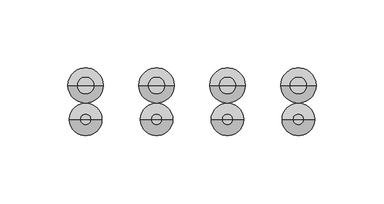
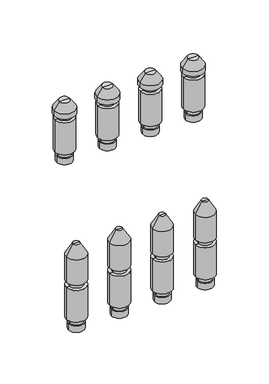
"""IFC4 building model written with IfcOpenShell, lengths in millimetres: valve geometry, PL AT_Manifold_FT-EV : 15 circuits."""

from ifc_helpers import new_model, si_unit, frame, origin, place, context, project, spatial, polyline, circle_curve, source, transform, mapped, element, save
from ifc_brep_helpers import plane_surface, cylinder_surface, revolved_surface, advanced_brep


def valve_94d66b99(model_context):
    return source(origin(), model_context, "Body", "AdvancedBrep", [
        advanced_brep(
        [(293.2142857, 0.0, -35.11267), (312.2142857, 0.0, -35.11267), (302.7142857, 0.0, -35.11267), (293.2142857, 0.0, -27.0369646), (312.2142857, 0.0, -27.0369646), (294.7142857, 0.0, -27.0369646), (310.7142857, 0.0, -27.0369646), (294.7142857, 0.0, -20.330253), (310.7142857, 0.0, -20.330253), (290.7142857, 0.0, -20.330253), (314.7142857, 0.0, -20.330253), (290.7142857, 0.0, 20.330253), (314.7142857, 0.0, 20.330253), (294.7142857, 0.0, 20.330253), (310.7142857, 0.0, 20.330253), (294.7142857, 0.0, 27.0474786), (310.7142857, 0.0, 27.0474786), (290.7142857, 0.0, 27.0474786), (314.7142857, 0.0, 27.0474786), (290.7142857, 0.0, 59.4084325), (314.7142857, 0.0, 59.4084325), (298.7142857, 0.0, 73.264839), (306.7142857, 0.0, 73.264839), (302.7142857, 0.0, 73.264839)],
        [
            (0, 1, circle_curve(frame((302.7142857, 0.0, -35.11267), z_axis=(0.0, 0.0, -1.0), x_axis=(1.0, 0.0, 0.0)), 9.5)),
            (1, 2),
            (2, 0),
            (1, 0, circle_curve(frame((302.7142857, 0.0, -35.11267), z_axis=(0.0, 0.0, -1.0), x_axis=(1.0, 0.0, 0.0)), 9.5)),
            (3, 4, circle_curve(frame((302.7142857, 0.0, -27.0369646), z_axis=(0.0, 0.0, -1.0), x_axis=(1.0, 0.0, 0.0)), 9.5)),
            (4, 1),
            (0, 3),
            (4, 3, circle_curve(frame((302.7142857, 0.0, -27.0369646), z_axis=(0.0, 0.0, -1.0), x_axis=(1.0, 0.0, 0.0)), 9.5)),
            (5, 6, circle_curve(frame((302.7142857, 0.0, -27.0369646), z_axis=(0.0, 0.0, -1.0), x_axis=(1.0, 0.0, 0.0)), 8.0)),
            (6, 4),
            (3, 5),
            (6, 5, circle_curve(frame((302.7142857, 0.0, -27.0369646), z_axis=(0.0, 0.0, -1.0), x_axis=(1.0, 0.0, 0.0)), 8.0)),
            (7, 8, circle_curve(frame((302.7142857, 0.0, -20.330253), z_axis=(0.0, 0.0, -1.0), x_axis=(1.0, 0.0, 0.0)), 8.0)),
            (8, 6),
            (5, 7),
            (8, 7, circle_curve(frame((302.7142857, 0.0, -20.330253), z_axis=(0.0, 0.0, -1.0), x_axis=(1.0, 0.0, 0.0)), 8.0)),
            (9, 10, circle_curve(frame((302.7142857, 0.0, -20.330253), z_axis=(0.0, 0.0, -1.0), x_axis=(1.0, 0.0, 0.0)), 12.0)),
            (10, 8),
            (7, 9),
            (10, 9, circle_curve(frame((302.7142857, 0.0, -20.330253), z_axis=(0.0, 0.0, -1.0), x_axis=(1.0, 0.0, 0.0)), 12.0)),
            (11, 12, circle_curve(frame((302.7142857, 0.0, 20.330253), z_axis=(0.0, 0.0, -1.0), x_axis=(1.0, 0.0, 0.0)), 12.0)),
            (12, 10),
            (9, 11),
            (12, 11, circle_curve(frame((302.7142857, 0.0, 20.330253), z_axis=(0.0, 0.0, -1.0), x_axis=(1.0, 0.0, 0.0)), 12.0)),
            (13, 14, circle_curve(frame((302.7142857, 0.0, 20.330253), z_axis=(0.0, 0.0, -1.0), x_axis=(1.0, 0.0, 0.0)), 8.0)),
            (14, 12),
            (11, 13),
            (14, 13, circle_curve(frame((302.7142857, 0.0, 20.330253), z_axis=(0.0, 0.0, -1.0), x_axis=(1.0, 0.0, 0.0)), 8.0)),
            (15, 16, circle_curve(frame((302.7142857, 0.0, 27.0474786), z_axis=(0.0, 0.0, -1.0), x_axis=(1.0, 0.0, 0.0)), 8.0)),
            (16, 14),
            (13, 15),
            (16, 15, circle_curve(frame((302.7142857, 0.0, 27.0474786), z_axis=(0.0, 0.0, -1.0), x_axis=(1.0, 0.0, 0.0)), 8.0)),
            (17, 18, circle_curve(frame((302.7142857, 0.0, 27.0474786), z_axis=(0.0, 0.0, -1.0), x_axis=(1.0, 0.0, 0.0)), 12.0)),
            (18, 16),
            (15, 17),
            (18, 17, circle_curve(frame((302.7142857, 0.0, 27.0474786), z_axis=(0.0, 0.0, -1.0), x_axis=(1.0, 0.0, 0.0)), 12.0)),
            (19, 20, circle_curve(frame((302.7142857, 0.0, 59.4084325), z_axis=(0.0, 0.0, -1.0), x_axis=(1.0, 0.0, 0.0)), 12.0)),
            (20, 18),
            (17, 19),
            (20, 19, circle_curve(frame((302.7142857, 0.0, 59.4084325), z_axis=(0.0, 0.0, -1.0), x_axis=(1.0, 0.0, 0.0)), 12.0)),
            (21, 22, circle_curve(frame((302.7142857, 0.0, 73.264839), z_axis=(0.0, 0.0, -1.0), x_axis=(1.0, 0.0, 0.0)), 4.0)),
            (22, 20),
            (19, 21),
            (22, 21, circle_curve(frame((302.7142857, 0.0, 73.264839), z_axis=(0.0, 0.0, -1.0), x_axis=(1.0, 0.0, 0.0)), 4.0)),
            (23, 22),
            (21, 23),
        ],
        [
            plane_surface(frame((302.7142857, 0.0, -35.11267), z_axis=(0.0, 0.0, -1.0), x_axis=(1.0, 0.0, 0.0))),
            cylinder_surface(frame((302.7142857, 0.0, 58.264839), z_axis=(0.0, 0.0, 1.0), x_axis=(1.0, 0.0, 0.0)), 9.5),
            plane_surface(frame((302.7142857, 0.0, -27.0369646), z_axis=(0.0, 0.0, 1.0), x_axis=(1.0, 0.0, 0.0))),
            cylinder_surface(frame((302.7142857, 0.0, 58.264839), z_axis=(0.0, 0.0, 1.0), x_axis=(1.0, 0.0, 0.0)), 8.0),
            plane_surface(frame((302.7142857, 0.0, -20.330253), z_axis=(0.0, 0.0, -1.0), x_axis=(1.0, 0.0, 0.0))),
            cylinder_surface(frame((302.7142857, 0.0, 58.264839), z_axis=(0.0, 0.0, 1.0), x_axis=(1.0, 0.0, 0.0)), 12.0),
            plane_surface(frame((302.7142857, 0.0, 20.330253), z_axis=(0.0, 0.0, 1.0), x_axis=(1.0, 0.0, 0.0))),
            plane_surface(frame((302.7142857, 0.0, 27.0474786), z_axis=(0.0, 0.0, -1.0), x_axis=(1.0, 0.0, 0.0))),
            revolved_surface(polyline([(314.7142857, 0.0, 59.4084325), (306.7142857, 0.0, 73.264839)]), (302.7142857, 0.0, 58.264839), (0.0, 0.0, 1.0)),
            plane_surface(frame((302.7142857, 0.0, 73.264839), z_axis=(0.0, 0.0, 1.0), x_axis=(1.0, 0.0, 0.0))),
        ],
        [
            (0, [[1, 2, 3]]),
            (0, [[4, -3, -2]]),
            (1, [[5, 6, -1, 7]]),
            (1, [[8, -7, -4, -6]]),
            (2, [[9, 10, -5, 11]]),
            (2, [[12, -11, -8, -10]]),
            (3, [[13, 14, -9, 15]]),
            (3, [[16, -15, -12, -14]]),
            (4, [[17, 18, -13, 19]]),
            (4, [[20, -19, -16, -18]]),
            (5, [[21, 22, -17, 23]]),
            (5, [[24, -23, -20, -22]]),
            (6, [[25, 26, -21, 27]]),
            (6, [[28, -27, -24, -26]]),
            (3, [[29, 30, -25, 31]]),
            (3, [[32, -31, -28, -30]]),
            (7, [[33, 34, -29, 35]]),
            (7, [[36, -35, -32, -34]]),
            (5, [[37, 38, -33, 39]]),
            (5, [[40, -39, -36, -38]]),
            (8, [[41, 42, -37, 43]]),
            (8, [[44, -43, -40, -42]]),
            (9, [[45, -41, 46]]),
            (9, [[-46, -44, -45]]),
        ],
    ),
        advanced_brep(
        [(241.0714286, 0.0, -35.11267), (260.0714286, 0.0, -35.11267), (250.5714286, 0.0, -35.11267), (241.0714286, 0.0, -27.0369646), (260.0714286, 0.0, -27.0369646), (242.5714286, 0.0, -27.0369646), (258.5714286, 0.0, -27.0369646), (242.5714286, 0.0, -20.330253), (258.5714286, 0.0, -20.330253), (238.5714286, 0.0, -20.330253), (262.5714286, 0.0, -20.330253), (238.5714286, 0.0, 20.330253), (262.5714286, 0.0, 20.330253), (242.5714286, 0.0, 20.330253), (258.5714286, 0.0, 20.330253), (242.5714286, 0.0, 27.0474786), (258.5714286, 0.0, 27.0474786), (238.5714286, 0.0, 27.0474786), (262.5714286, 0.0, 27.0474786), (238.5714286, 0.0, 59.4084325), (262.5714286, 0.0, 59.4084325), (246.5714286, 0.0, 73.264839), (254.5714286, 0.0, 73.264839), (250.5714286, 0.0, 73.264839)],
        [
            (0, 1, circle_curve(frame((250.5714286, 0.0, -35.11267), z_axis=(0.0, 0.0, -1.0), x_axis=(1.0, 0.0, 0.0)), 9.5)),
            (1, 2),
            (2, 0),
            (1, 0, circle_curve(frame((250.5714286, 0.0, -35.11267), z_axis=(0.0, 0.0, -1.0), x_axis=(1.0, 0.0, 0.0)), 9.5)),
            (3, 4, circle_curve(frame((250.5714286, 0.0, -27.0369646), z_axis=(0.0, 0.0, -1.0), x_axis=(1.0, 0.0, 0.0)), 9.5)),
            (4, 1),
            (0, 3),
            (4, 3, circle_curve(frame((250.5714286, 0.0, -27.0369646), z_axis=(0.0, 0.0, -1.0), x_axis=(1.0, 0.0, 0.0)), 9.5)),
            (5, 6, circle_curve(frame((250.5714286, 0.0, -27.0369646), z_axis=(0.0, 0.0, -1.0), x_axis=(1.0, 0.0, 0.0)), 8.0)),
            (6, 4),
            (3, 5),
            (6, 5, circle_curve(frame((250.5714286, 0.0, -27.0369646), z_axis=(0.0, 0.0, -1.0), x_axis=(1.0, 0.0, 0.0)), 8.0)),
            (7, 8, circle_curve(frame((250.5714286, 0.0, -20.330253), z_axis=(0.0, 0.0, -1.0), x_axis=(1.0, 0.0, 0.0)), 8.0)),
            (8, 6),
            (5, 7),
            (8, 7, circle_curve(frame((250.5714286, 0.0, -20.330253), z_axis=(0.0, 0.0, -1.0), x_axis=(1.0, 0.0, 0.0)), 8.0)),
            (9, 10, circle_curve(frame((250.5714286, 0.0, -20.330253), z_axis=(0.0, 0.0, -1.0), x_axis=(1.0, 0.0, 0.0)), 12.0)),
            (10, 8),
            (7, 9),
            (10, 9, circle_curve(frame((250.5714286, 0.0, -20.330253), z_axis=(0.0, 0.0, -1.0), x_axis=(1.0, 0.0, 0.0)), 12.0)),
            (11, 12, circle_curve(frame((250.5714286, 0.0, 20.330253), z_axis=(0.0, 0.0, -1.0), x_axis=(1.0, 0.0, 0.0)), 12.0)),
            (12, 10),
            (9, 11),
            (12, 11, circle_curve(frame((250.5714286, 0.0, 20.330253), z_axis=(0.0, 0.0, -1.0), x_axis=(1.0, 0.0, 0.0)), 12.0)),
            (13, 14, circle_curve(frame((250.5714286, 0.0, 20.330253), z_axis=(0.0, 0.0, -1.0), x_axis=(1.0, 0.0, 0.0)), 8.0)),
            (14, 12),
            (11, 13),
            (14, 13, circle_curve(frame((250.5714286, 0.0, 20.330253), z_axis=(0.0, 0.0, -1.0), x_axis=(1.0, 0.0, 0.0)), 8.0)),
            (15, 16, circle_curve(frame((250.5714286, 0.0, 27.0474786), z_axis=(0.0, 0.0, -1.0), x_axis=(1.0, 0.0, 0.0)), 8.0)),
            (16, 14),
            (13, 15),
            (16, 15, circle_curve(frame((250.5714286, 0.0, 27.0474786), z_axis=(0.0, 0.0, -1.0), x_axis=(1.0, 0.0, 0.0)), 8.0)),
            (17, 18, circle_curve(frame((250.5714286, 0.0, 27.0474786), z_axis=(0.0, 0.0, -1.0), x_axis=(1.0, 0.0, 0.0)), 12.0)),
            (18, 16),
            (15, 17),
            (18, 17, circle_curve(frame((250.5714286, 0.0, 27.0474786), z_axis=(0.0, 0.0, -1.0), x_axis=(1.0, 0.0, 0.0)), 12.0)),
            (19, 20, circle_curve(frame((250.5714286, 0.0, 59.4084325), z_axis=(0.0, 0.0, -1.0), x_axis=(1.0, 0.0, 0.0)), 12.0)),
            (20, 18),
            (17, 19),
            (20, 19, circle_curve(frame((250.5714286, 0.0, 59.4084325), z_axis=(0.0, 0.0, -1.0), x_axis=(1.0, 0.0, 0.0)), 12.0)),
            (21, 22, circle_curve(frame((250.5714286, 0.0, 73.264839), z_axis=(0.0, 0.0, -1.0), x_axis=(1.0, 0.0, 0.0)), 4.0)),
            (22, 20),
            (19, 21),
            (22, 21, circle_curve(frame((250.5714286, 0.0, 73.264839), z_axis=(0.0, 0.0, -1.0), x_axis=(1.0, 0.0, 0.0)), 4.0)),
            (23, 22),
            (21, 23),
        ],
        [
            plane_surface(frame((250.5714286, 0.0, -35.11267), z_axis=(0.0, 0.0, -1.0), x_axis=(1.0, 0.0, 0.0))),
            cylinder_surface(frame((250.5714286, 0.0, 58.264839), z_axis=(0.0, 0.0, 1.0), x_axis=(1.0, 0.0, 0.0)), 9.5),
            plane_surface(frame((250.5714286, 0.0, -27.0369646), z_axis=(0.0, 0.0, 1.0), x_axis=(1.0, 0.0, 0.0))),
            cylinder_surface(frame((250.5714286, 0.0, 58.264839), z_axis=(0.0, 0.0, 1.0), x_axis=(1.0, 0.0, 0.0)), 8.0),
            plane_surface(frame((250.5714286, 0.0, -20.330253), z_axis=(0.0, 0.0, -1.0), x_axis=(1.0, 0.0, 0.0))),
            cylinder_surface(frame((250.5714286, 0.0, 58.264839), z_axis=(0.0, 0.0, 1.0), x_axis=(1.0, 0.0, 0.0)), 12.0),
            plane_surface(frame((250.5714286, 0.0, 20.330253), z_axis=(0.0, 0.0, 1.0), x_axis=(1.0, 0.0, 0.0))),
            plane_surface(frame((250.5714286, 0.0, 27.0474786), z_axis=(0.0, 0.0, -1.0), x_axis=(1.0, 0.0, 0.0))),
            revolved_surface(polyline([(262.5714286, 0.0, 59.4084325), (254.5714286, 0.0, 73.264839)]), (250.5714286, 0.0, 58.264839), (0.0, 0.0, 1.0)),
            plane_surface(frame((250.5714286, 0.0, 73.264839), z_axis=(0.0, 0.0, 1.0), x_axis=(1.0, 0.0, 0.0))),
        ],
        [
            (0, [[1, 2, 3]]),
            (0, [[4, -3, -2]]),
            (1, [[5, 6, -1, 7]]),
            (1, [[8, -7, -4, -6]]),
            (2, [[9, 10, -5, 11]]),
            (2, [[12, -11, -8, -10]]),
            (3, [[13, 14, -9, 15]]),
            (3, [[16, -15, -12, -14]]),
            (4, [[17, 18, -13, 19]]),
            (4, [[20, -19, -16, -18]]),
            (5, [[21, 22, -17, 23]]),
            (5, [[24, -23, -20, -22]]),
            (6, [[25, 26, -21, 27]]),
            (6, [[28, -27, -24, -26]]),
            (3, [[29, 30, -25, 31]]),
            (3, [[32, -31, -28, -30]]),
            (7, [[33, 34, -29, 35]]),
            (7, [[36, -35, -32, -34]]),
            (5, [[37, 38, -33, 39]]),
            (5, [[40, -39, -36, -38]]),
            (8, [[41, 42, -37, 43]]),
            (8, [[44, -43, -40, -42]]),
            (9, [[45, -41, 46]]),
            (9, [[-46, -44, -45]]),
        ],
    ),
        advanced_brep(
        [(188.9285714, 0.0, -35.11267), (207.9285714, 0.0, -35.11267), (198.4285714, 0.0, -35.11267), (188.9285714, 0.0, -27.0369646), (207.9285714, 0.0, -27.0369646), (190.4285714, 0.0, -27.0369646), (206.4285714, 0.0, -27.0369646), (190.4285714, 0.0, -20.330253), (206.4285714, 0.0, -20.330253), (186.4285714, 0.0, -20.330253), (210.4285714, 0.0, -20.330253), (186.4285714, 0.0, 20.330253), (210.4285714, 0.0, 20.330253), (190.4285714, 0.0, 20.330253), (206.4285714, 0.0, 20.330253), (190.4285714, 0.0, 27.0474786), (206.4285714, 0.0, 27.0474786), (186.4285714, 0.0, 27.0474786), (210.4285714, 0.0, 27.0474786), (186.4285714, 0.0, 59.4084325), (210.4285714, 0.0, 59.4084325), (194.4285714, 0.0, 73.264839), (202.4285714, 0.0, 73.264839), (198.4285714, 0.0, 73.264839)],
        [
            (0, 1, circle_curve(frame((198.4285714, 0.0, -35.11267), z_axis=(0.0, 0.0, -1.0), x_axis=(1.0, 0.0, 0.0)), 9.5)),
            (1, 2),
            (2, 0),
            (1, 0, circle_curve(frame((198.4285714, 0.0, -35.11267), z_axis=(0.0, 0.0, -1.0), x_axis=(1.0, 0.0, 0.0)), 9.5)),
            (3, 4, circle_curve(frame((198.4285714, 0.0, -27.0369646), z_axis=(0.0, 0.0, -1.0), x_axis=(1.0, 0.0, 0.0)), 9.5)),
            (4, 1),
            (0, 3),
            (4, 3, circle_curve(frame((198.4285714, 0.0, -27.0369646), z_axis=(0.0, 0.0, -1.0), x_axis=(1.0, 0.0, 0.0)), 9.5)),
            (5, 6, circle_curve(frame((198.4285714, 0.0, -27.0369646), z_axis=(0.0, 0.0, -1.0), x_axis=(1.0, 0.0, 0.0)), 8.0)),
            (6, 4),
            (3, 5),
            (6, 5, circle_curve(frame((198.4285714, 0.0, -27.0369646), z_axis=(0.0, 0.0, -1.0), x_axis=(1.0, 0.0, 0.0)), 8.0)),
            (7, 8, circle_curve(frame((198.4285714, 0.0, -20.330253), z_axis=(0.0, 0.0, -1.0), x_axis=(1.0, 0.0, 0.0)), 8.0)),
            (8, 6),
            (5, 7),
            (8, 7, circle_curve(frame((198.4285714, 0.0, -20.330253), z_axis=(0.0, 0.0, -1.0), x_axis=(1.0, 0.0, 0.0)), 8.0)),
            (9, 10, circle_curve(frame((198.4285714, 0.0, -20.330253), z_axis=(0.0, 0.0, -1.0), x_axis=(1.0, 0.0, 0.0)), 12.0)),
            (10, 8),
            (7, 9),
            (10, 9, circle_curve(frame((198.4285714, 0.0, -20.330253), z_axis=(0.0, 0.0, -1.0), x_axis=(1.0, 0.0, 0.0)), 12.0)),
            (11, 12, circle_curve(frame((198.4285714, 0.0, 20.330253), z_axis=(0.0, 0.0, -1.0), x_axis=(1.0, 0.0, 0.0)), 12.0)),
            (12, 10),
            (9, 11),
            (12, 11, circle_curve(frame((198.4285714, 0.0, 20.330253), z_axis=(0.0, 0.0, -1.0), x_axis=(1.0, 0.0, 0.0)), 12.0)),
            (13, 14, circle_curve(frame((198.4285714, 0.0, 20.330253), z_axis=(0.0, 0.0, -1.0), x_axis=(1.0, 0.0, 0.0)), 8.0)),
            (14, 12),
            (11, 13),
            (14, 13, circle_curve(frame((198.4285714, 0.0, 20.330253), z_axis=(0.0, 0.0, -1.0), x_axis=(1.0, 0.0, 0.0)), 8.0)),
            (15, 16, circle_curve(frame((198.4285714, 0.0, 27.0474786), z_axis=(0.0, 0.0, -1.0), x_axis=(1.0, 0.0, 0.0)), 8.0)),
            (16, 14),
            (13, 15),
            (16, 15, circle_curve(frame((198.4285714, 0.0, 27.0474786), z_axis=(0.0, 0.0, -1.0), x_axis=(1.0, 0.0, 0.0)), 8.0)),
            (17, 18, circle_curve(frame((198.4285714, 0.0, 27.0474786), z_axis=(0.0, 0.0, -1.0), x_axis=(1.0, 0.0, 0.0)), 12.0)),
            (18, 16),
            (15, 17),
            (18, 17, circle_curve(frame((198.4285714, 0.0, 27.0474786), z_axis=(0.0, 0.0, -1.0), x_axis=(1.0, 0.0, 0.0)), 12.0)),
            (19, 20, circle_curve(frame((198.4285714, 0.0, 59.4084325), z_axis=(0.0, 0.0, -1.0), x_axis=(1.0, 0.0, 0.0)), 12.0)),
            (20, 18),
            (17, 19),
            (20, 19, circle_curve(frame((198.4285714, 0.0, 59.4084325), z_axis=(0.0, 0.0, -1.0), x_axis=(1.0, 0.0, 0.0)), 12.0)),
            (21, 22, circle_curve(frame((198.4285714, 0.0, 73.264839), z_axis=(0.0, 0.0, -1.0), x_axis=(1.0, 0.0, 0.0)), 4.0)),
            (22, 20),
            (19, 21),
            (22, 21, circle_curve(frame((198.4285714, 0.0, 73.264839), z_axis=(0.0, 0.0, -1.0), x_axis=(1.0, 0.0, 0.0)), 4.0)),
            (23, 22),
            (21, 23),
        ],
        [
            plane_surface(frame((198.4285714, 0.0, -35.11267), z_axis=(0.0, 0.0, -1.0), x_axis=(1.0, 0.0, 0.0))),
            cylinder_surface(frame((198.4285714, 0.0, 58.264839), z_axis=(0.0, 0.0, 1.0), x_axis=(1.0, 0.0, 0.0)), 9.5),
            plane_surface(frame((198.4285714, 0.0, -27.0369646), z_axis=(0.0, 0.0, 1.0), x_axis=(1.0, 0.0, 0.0))),
            cylinder_surface(frame((198.4285714, 0.0, 58.264839), z_axis=(0.0, 0.0, 1.0), x_axis=(1.0, 0.0, 0.0)), 8.0),
            plane_surface(frame((198.4285714, 0.0, -20.330253), z_axis=(0.0, 0.0, -1.0), x_axis=(1.0, 0.0, 0.0))),
            cylinder_surface(frame((198.4285714, 0.0, 58.264839), z_axis=(0.0, 0.0, 1.0), x_axis=(1.0, 0.0, 0.0)), 12.0),
            plane_surface(frame((198.4285714, 0.0, 20.330253), z_axis=(0.0, 0.0, 1.0), x_axis=(1.0, 0.0, 0.0))),
            plane_surface(frame((198.4285714, 0.0, 27.0474786), z_axis=(0.0, 0.0, -1.0), x_axis=(1.0, 0.0, 0.0))),
            revolved_surface(polyline([(210.4285714, 0.0, 59.4084325), (202.4285714, 0.0, 73.264839)]), (198.4285714, 0.0, 58.264839), (0.0, 0.0, 1.0)),
            plane_surface(frame((198.4285714, 0.0, 73.264839), z_axis=(0.0, 0.0, 1.0), x_axis=(1.0, 0.0, 0.0))),
        ],
        [
            (0, [[1, 2, 3]]),
            (0, [[4, -3, -2]]),
            (1, [[5, 6, -1, 7]]),
            (1, [[8, -7, -4, -6]]),
            (2, [[9, 10, -5, 11]]),
            (2, [[12, -11, -8, -10]]),
            (3, [[13, 14, -9, 15]]),
            (3, [[16, -15, -12, -14]]),
            (4, [[17, 18, -13, 19]]),
            (4, [[20, -19, -16, -18]]),
            (5, [[21, 22, -17, 23]]),
            (5, [[24, -23, -20, -22]]),
            (6, [[25, 26, -21, 27]]),
            (6, [[28, -27, -24, -26]]),
            (3, [[29, 30, -25, 31]]),
            (3, [[32, -31, -28, -30]]),
            (7, [[33, 34, -29, 35]]),
            (7, [[36, -35, -32, -34]]),
            (5, [[37, 38, -33, 39]]),
            (5, [[40, -39, -36, -38]]),
            (8, [[41, 42, -37, 43]]),
            (8, [[44, -43, -40, -42]]),
            (9, [[45, -41, 46]]),
            (9, [[-46, -44, -45]]),
        ],
    ),
        advanced_brep(
        [(136.7857143, 0.0, -35.11267), (155.7857143, 0.0, -35.11267), (146.2857143, 0.0, -35.11267), (136.7857143, 0.0, -27.0369646), (155.7857143, 0.0, -27.0369646), (138.2857143, 0.0, -27.0369646), (154.2857143, 0.0, -27.0369646), (138.2857143, 0.0, -20.330253), (154.2857143, 0.0, -20.330253), (134.2857143, 0.0, -20.330253), (158.2857143, 0.0, -20.330253), (134.2857143, 0.0, 20.330253), (158.2857143, 0.0, 20.330253), (138.2857143, 0.0, 20.330253), (154.2857143, 0.0, 20.330253), (138.2857143, 0.0, 27.0474786), (154.2857143, 0.0, 27.0474786), (134.2857143, 0.0, 27.0474786), (158.2857143, 0.0, 27.0474786), (134.2857143, 0.0, 59.4084325), (158.2857143, 0.0, 59.4084325), (142.2857143, 0.0, 73.264839), (150.2857143, 0.0, 73.264839), (146.2857143, 0.0, 73.264839)],
        [
            (0, 1, circle_curve(frame((146.2857143, 0.0, -35.11267), z_axis=(0.0, 0.0, -1.0), x_axis=(1.0, 0.0, 0.0)), 9.5)),
            (1, 2),
            (2, 0),
            (1, 0, circle_curve(frame((146.2857143, 0.0, -35.11267), z_axis=(0.0, 0.0, -1.0), x_axis=(1.0, 0.0, 0.0)), 9.5)),
            (3, 4, circle_curve(frame((146.2857143, 0.0, -27.0369646), z_axis=(0.0, 0.0, -1.0), x_axis=(1.0, 0.0, 0.0)), 9.5)),
            (4, 1),
            (0, 3),
            (4, 3, circle_curve(frame((146.2857143, 0.0, -27.0369646), z_axis=(0.0, 0.0, -1.0), x_axis=(1.0, 0.0, 0.0)), 9.5)),
            (5, 6, circle_curve(frame((146.2857143, 0.0, -27.0369646), z_axis=(0.0, 0.0, -1.0), x_axis=(1.0, 0.0, 0.0)), 8.0)),
            (6, 4),
            (3, 5),
            (6, 5, circle_curve(frame((146.2857143, 0.0, -27.0369646), z_axis=(0.0, 0.0, -1.0), x_axis=(1.0, 0.0, 0.0)), 8.0)),
            (7, 8, circle_curve(frame((146.2857143, 0.0, -20.330253), z_axis=(0.0, 0.0, -1.0), x_axis=(1.0, 0.0, 0.0)), 8.0)),
            (8, 6),
            (5, 7),
            (8, 7, circle_curve(frame((146.2857143, 0.0, -20.330253), z_axis=(0.0, 0.0, -1.0), x_axis=(1.0, 0.0, 0.0)), 8.0)),
            (9, 10, circle_curve(frame((146.2857143, 0.0, -20.330253), z_axis=(0.0, 0.0, -1.0), x_axis=(1.0, 0.0, 0.0)), 12.0)),
            (10, 8),
            (7, 9),
            (10, 9, circle_curve(frame((146.2857143, 0.0, -20.330253), z_axis=(0.0, 0.0, -1.0), x_axis=(1.0, 0.0, 0.0)), 12.0)),
            (11, 12, circle_curve(frame((146.2857143, 0.0, 20.330253), z_axis=(0.0, 0.0, -1.0), x_axis=(1.0, 0.0, 0.0)), 12.0)),
            (12, 10),
            (9, 11),
            (12, 11, circle_curve(frame((146.2857143, 0.0, 20.330253), z_axis=(0.0, 0.0, -1.0), x_axis=(1.0, 0.0, 0.0)), 12.0)),
            (13, 14, circle_curve(frame((146.2857143, 0.0, 20.330253), z_axis=(0.0, 0.0, -1.0), x_axis=(1.0, 0.0, 0.0)), 8.0)),
            (14, 12),
            (11, 13),
            (14, 13, circle_curve(frame((146.2857143, 0.0, 20.330253), z_axis=(0.0, 0.0, -1.0), x_axis=(1.0, 0.0, 0.0)), 8.0)),
            (15, 16, circle_curve(frame((146.2857143, 0.0, 27.0474786), z_axis=(0.0, 0.0, -1.0), x_axis=(1.0, 0.0, 0.0)), 8.0)),
            (16, 14),
            (13, 15),
            (16, 15, circle_curve(frame((146.2857143, 0.0, 27.0474786), z_axis=(0.0, 0.0, -1.0), x_axis=(1.0, 0.0, 0.0)), 8.0)),
            (17, 18, circle_curve(frame((146.2857143, 0.0, 27.0474786), z_axis=(0.0, 0.0, -1.0), x_axis=(1.0, 0.0, 0.0)), 12.0)),
            (18, 16),
            (15, 17),
            (18, 17, circle_curve(frame((146.2857143, 0.0, 27.0474786), z_axis=(0.0, 0.0, -1.0), x_axis=(1.0, 0.0, 0.0)), 12.0)),
            (19, 20, circle_curve(frame((146.2857143, 0.0, 59.4084325), z_axis=(0.0, 0.0, -1.0), x_axis=(1.0, 0.0, 0.0)), 12.0)),
            (20, 18),
            (17, 19),
            (20, 19, circle_curve(frame((146.2857143, 0.0, 59.4084325), z_axis=(0.0, 0.0, -1.0), x_axis=(1.0, 0.0, 0.0)), 12.0)),
            (21, 22, circle_curve(frame((146.2857143, 0.0, 73.264839), z_axis=(0.0, 0.0, -1.0), x_axis=(1.0, 0.0, 0.0)), 4.0)),
            (22, 20),
            (19, 21),
            (22, 21, circle_curve(frame((146.2857143, 0.0, 73.264839), z_axis=(0.0, 0.0, -1.0), x_axis=(1.0, 0.0, 0.0)), 4.0)),
            (23, 22),
            (21, 23),
        ],
        [
            plane_surface(frame((146.2857143, 0.0, -35.11267), z_axis=(0.0, 0.0, -1.0), x_axis=(1.0, 0.0, 0.0))),
            cylinder_surface(frame((146.2857143, 0.0, 58.264839), z_axis=(0.0, 0.0, 1.0), x_axis=(1.0, 0.0, 0.0)), 9.5),
            plane_surface(frame((146.2857143, 0.0, -27.0369646), z_axis=(0.0, 0.0, 1.0), x_axis=(1.0, 0.0, 0.0))),
            cylinder_surface(frame((146.2857143, 0.0, 58.264839), z_axis=(0.0, 0.0, 1.0), x_axis=(1.0, 0.0, 0.0)), 8.0),
            plane_surface(frame((146.2857143, 0.0, -20.330253), z_axis=(0.0, 0.0, -1.0), x_axis=(1.0, 0.0, 0.0))),
            cylinder_surface(frame((146.2857143, 0.0, 58.264839), z_axis=(0.0, 0.0, 1.0), x_axis=(1.0, 0.0, 0.0)), 12.0),
            plane_surface(frame((146.2857143, 0.0, 20.330253), z_axis=(0.0, 0.0, 1.0), x_axis=(1.0, 0.0, 0.0))),
            plane_surface(frame((146.2857143, 0.0, 27.0474786), z_axis=(0.0, 0.0, -1.0), x_axis=(1.0, 0.0, 0.0))),
            revolved_surface(polyline([(158.2857143, 0.0, 59.4084325), (150.2857143, 0.0, 73.264839)]), (146.2857143, 0.0, 58.264839), (0.0, 0.0, 1.0)),
            plane_surface(frame((146.2857143, 0.0, 73.264839), z_axis=(0.0, 0.0, 1.0), x_axis=(1.0, 0.0, 0.0))),
        ],
        [
            (0, [[1, 2, 3]]),
            (0, [[4, -3, -2]]),
            (1, [[5, 6, -1, 7]]),
            (1, [[8, -7, -4, -6]]),
            (2, [[9, 10, -5, 11]]),
            (2, [[12, -11, -8, -10]]),
            (3, [[13, 14, -9, 15]]),
            (3, [[16, -15, -12, -14]]),
            (4, [[17, 18, -13, 19]]),
            (4, [[20, -19, -16, -18]]),
            (5, [[21, 22, -17, 23]]),
            (5, [[24, -23, -20, -22]]),
            (6, [[25, 26, -21, 27]]),
            (6, [[28, -27, -24, -26]]),
            (3, [[29, 30, -25, 31]]),
            (3, [[32, -31, -28, -30]]),
            (7, [[33, 34, -29, 35]]),
            (7, [[36, -35, -32, -34]]),
            (5, [[37, 38, -33, 39]]),
            (5, [[40, -39, -36, -38]]),
            (8, [[41, 42, -37, 43]]),
            (8, [[44, -43, -40, -42]]),
            (9, [[45, -41, 46]]),
            (9, [[-46, -44, -45]]),
        ],
    ),
        advanced_brep(
        [(293.2142857, 25.0, 164.88733), (312.2142857, 25.0, 164.88733), (302.7142857, 25.0, 164.88733), (293.2142857, 25.0, 172.9630354), (312.2142857, 25.0, 172.9630354), (294.7142857, 25.0, 172.9630354), (310.7142857, 25.0, 172.9630354), (294.7142857, 25.0, 179.669747), (310.7142857, 25.0, 179.669747), (290.7142857, 25.0, 179.669747), (314.7142857, 25.0, 179.669747), (290.7142857, 25.0, 220.330253), (314.7142857, 25.0, 220.330253), (294.7142857, 25.0, 220.330253), (310.7142857, 25.0, 220.330253), (294.7142857, 25.0, 226.0474786), (310.7142857, 25.0, 226.0474786), (289.7142857, 25.0, 226.0474786), (315.7142857, 25.0, 226.0474786), (289.7142857, 25.0, 232.337955), (315.7142857, 25.0, 232.337955), (296.3694636, 25.0, 241.842534), (309.0591078, 25.0, 241.842534), (302.7142857, 25.0, 241.842534)],
        [
            (0, 1, circle_curve(frame((302.7142857, 25.0, 164.88733), z_axis=(0.0, 0.0, -1.0), x_axis=(1.0, 0.0, 0.0)), 9.5)),
            (1, 2),
            (2, 0),
            (1, 0, circle_curve(frame((302.7142857, 25.0, 164.88733), z_axis=(0.0, 0.0, -1.0), x_axis=(1.0, 0.0, 0.0)), 9.5)),
            (3, 4, circle_curve(frame((302.7142857, 25.0, 172.9630354), z_axis=(0.0, 0.0, -1.0), x_axis=(1.0, 0.0, 0.0)), 9.5)),
            (4, 1),
            (0, 3),
            (4, 3, circle_curve(frame((302.7142857, 25.0, 172.9630354), z_axis=(0.0, 0.0, -1.0), x_axis=(1.0, 0.0, 0.0)), 9.5)),
            (5, 6, circle_curve(frame((302.7142857, 25.0, 172.9630354), z_axis=(0.0, 0.0, -1.0), x_axis=(1.0, 0.0, 0.0)), 8.0)),
            (6, 4),
            (3, 5),
            (6, 5, circle_curve(frame((302.7142857, 25.0, 172.9630354), z_axis=(0.0, 0.0, -1.0), x_axis=(1.0, 0.0, 0.0)), 8.0)),
            (7, 8, circle_curve(frame((302.7142857, 25.0, 179.669747), z_axis=(0.0, 0.0, -1.0), x_axis=(1.0, 0.0, 0.0)), 8.0)),
            (8, 6),
            (5, 7),
            (8, 7, circle_curve(frame((302.7142857, 25.0, 179.669747), z_axis=(0.0, 0.0, -1.0), x_axis=(1.0, 0.0, 0.0)), 8.0)),
            (9, 10, circle_curve(frame((302.7142857, 25.0, 179.669747), z_axis=(0.0, 0.0, -1.0), x_axis=(1.0, 0.0, 0.0)), 12.0)),
            (10, 8),
            (7, 9),
            (10, 9, circle_curve(frame((302.7142857, 25.0, 179.669747), z_axis=(0.0, 0.0, -1.0), x_axis=(1.0, 0.0, 0.0)), 12.0)),
            (11, 12, circle_curve(frame((302.7142857, 25.0, 220.330253), z_axis=(0.0, 0.0, -1.0), x_axis=(1.0, 0.0, 0.0)), 12.0)),
            (12, 10),
            (9, 11),
            (12, 11, circle_curve(frame((302.7142857, 25.0, 220.330253), z_axis=(0.0, 0.0, -1.0), x_axis=(1.0, 0.0, 0.0)), 12.0)),
            (13, 14, circle_curve(frame((302.7142857, 25.0, 220.330253), z_axis=(0.0, 0.0, -1.0), x_axis=(1.0, 0.0, 0.0)), 8.0)),
            (14, 12),
            (11, 13),
            (14, 13, circle_curve(frame((302.7142857, 25.0, 220.330253), z_axis=(0.0, 0.0, -1.0), x_axis=(1.0, 0.0, 0.0)), 8.0)),
            (15, 16, circle_curve(frame((302.7142857, 25.0, 226.0474786), z_axis=(0.0, 0.0, -1.0), x_axis=(1.0, 0.0, 0.0)), 8.0)),
            (16, 14),
            (13, 15),
            (16, 15, circle_curve(frame((302.7142857, 25.0, 226.0474786), z_axis=(0.0, 0.0, -1.0), x_axis=(1.0, 0.0, 0.0)), 8.0)),
            (17, 18, circle_curve(frame((302.7142857, 25.0, 226.0474786), z_axis=(0.0, 0.0, -1.0), x_axis=(1.0, 0.0, 0.0)), 13.0)),
            (18, 16),
            (15, 17),
            (18, 17, circle_curve(frame((302.7142857, 25.0, 226.0474786), z_axis=(0.0, 0.0, -1.0), x_axis=(1.0, 0.0, 0.0)), 13.0)),
            (19, 20, circle_curve(frame((302.7142857, 25.0, 232.337955), z_axis=(0.0, 0.0, -1.0), x_axis=(1.0, 0.0, 0.0)), 13.0)),
            (20, 18),
            (17, 19),
            (20, 19, circle_curve(frame((302.7142857, 25.0, 232.337955), z_axis=(0.0, 0.0, -1.0), x_axis=(1.0, 0.0, 0.0)), 13.0)),
            (21, 22, circle_curve(frame((302.7142857, 25.0, 241.842534), z_axis=(0.0, 0.0, -1.0), x_axis=(1.0, 0.0, 0.0)), 6.3448221)),
            (22, 20),
            (19, 21),
            (22, 21, circle_curve(frame((302.7142857, 25.0, 241.842534), z_axis=(0.0, 0.0, -1.0), x_axis=(1.0, 0.0, 0.0)), 6.3448221)),
            (23, 22),
            (21, 23),
        ],
        [
            plane_surface(frame((302.7142857, 25.0, 164.88733), z_axis=(0.0, 0.0, -1.0), x_axis=(1.0, 0.0, 0.0))),
            cylinder_surface(frame((302.7142857, 25.0, 237.7026565), z_axis=(0.0, 0.0, 1.0), x_axis=(1.0, 0.0, 0.0)), 9.5),
            plane_surface(frame((302.7142857, 25.0, 172.9630354), z_axis=(0.0, 0.0, 1.0), x_axis=(1.0, 0.0, 0.0))),
            cylinder_surface(frame((302.7142857, 25.0, 237.7026565), z_axis=(0.0, 0.0, 1.0), x_axis=(1.0, 0.0, 0.0)), 8.0),
            plane_surface(frame((302.7142857, 25.0, 179.669747), z_axis=(0.0, 0.0, -1.0), x_axis=(1.0, 0.0, 0.0))),
            cylinder_surface(frame((302.7142857, 25.0, 237.7026565), z_axis=(0.0, 0.0, 1.0), x_axis=(1.0, 0.0, 0.0)), 12.0),
            plane_surface(frame((302.7142857, 25.0, 220.330253), z_axis=(0.0, 0.0, 1.0), x_axis=(1.0, 0.0, 0.0))),
            plane_surface(frame((302.7142857, 25.0, 226.0474786), z_axis=(0.0, 0.0, -1.0), x_axis=(1.0, 0.0, 0.0))),
            cylinder_surface(frame((302.7142857, 25.0, 237.7026565), z_axis=(0.0, 0.0, 1.0), x_axis=(1.0, 0.0, 0.0)), 13.0),
            revolved_surface(polyline([(315.7142857, 25.0, 232.337955), (309.0591078, 25.0, 241.842534)]), (302.7142857, 25.0, 237.7026565), (0.0, 0.0, 1.0)),
            plane_surface(frame((302.7142857, 25.0, 241.842534), z_axis=(0.0, 0.0, 1.0), x_axis=(1.0, 0.0, 0.0))),
        ],
        [
            (0, [[1, 2, 3]]),
            (0, [[4, -3, -2]]),
            (1, [[5, 6, -1, 7]]),
            (1, [[8, -7, -4, -6]]),
            (2, [[9, 10, -5, 11]]),
            (2, [[12, -11, -8, -10]]),
            (3, [[13, 14, -9, 15]]),
            (3, [[16, -15, -12, -14]]),
            (4, [[17, 18, -13, 19]]),
            (4, [[20, -19, -16, -18]]),
            (5, [[21, 22, -17, 23]]),
            (5, [[24, -23, -20, -22]]),
            (6, [[25, 26, -21, 27]]),
            (6, [[28, -27, -24, -26]]),
            (3, [[29, 30, -25, 31]]),
            (3, [[32, -31, -28, -30]]),
            (7, [[33, 34, -29, 35]]),
            (7, [[36, -35, -32, -34]]),
            (8, [[37, 38, -33, 39]]),
            (8, [[40, -39, -36, -38]]),
            (9, [[41, 42, -37, 43]]),
            (9, [[44, -43, -40, -42]]),
            (10, [[45, -41, 46]]),
            (10, [[-46, -44, -45]]),
        ],
    ),
        advanced_brep(
        [(241.0714286, 25.0, 164.88733), (260.0714286, 25.0, 164.88733), (250.5714286, 25.0, 164.88733), (241.0714286, 25.0, 172.9630354), (260.0714286, 25.0, 172.9630354), (242.5714286, 25.0, 172.9630354), (258.5714286, 25.0, 172.9630354), (242.5714286, 25.0, 179.669747), (258.5714286, 25.0, 179.669747), (238.5714286, 25.0, 179.669747), (262.5714286, 25.0, 179.669747), (238.5714286, 25.0, 220.330253), (262.5714286, 25.0, 220.330253), (242.5714286, 25.0, 220.330253), (258.5714286, 25.0, 220.330253), (242.5714286, 25.0, 226.0474786), (258.5714286, 25.0, 226.0474786), (237.5714286, 25.0, 226.0474786), (263.5714286, 25.0, 226.0474786), (237.5714286, 25.0, 232.337955), (263.5714286, 25.0, 232.337955), (244.2266064, 25.0, 241.842534), (256.9162507, 25.0, 241.842534), (250.5714286, 25.0, 241.842534)],
        [
            (0, 1, circle_curve(frame((250.5714286, 25.0, 164.88733), z_axis=(0.0, 0.0, -1.0), x_axis=(1.0, 0.0, 0.0)), 9.5)),
            (1, 2),
            (2, 0),
            (1, 0, circle_curve(frame((250.5714286, 25.0, 164.88733), z_axis=(0.0, 0.0, -1.0), x_axis=(1.0, 0.0, 0.0)), 9.5)),
            (3, 4, circle_curve(frame((250.5714286, 25.0, 172.9630354), z_axis=(0.0, 0.0, -1.0), x_axis=(1.0, 0.0, 0.0)), 9.5)),
            (4, 1),
            (0, 3),
            (4, 3, circle_curve(frame((250.5714286, 25.0, 172.9630354), z_axis=(0.0, 0.0, -1.0), x_axis=(1.0, 0.0, 0.0)), 9.5)),
            (5, 6, circle_curve(frame((250.5714286, 25.0, 172.9630354), z_axis=(0.0, 0.0, -1.0), x_axis=(1.0, 0.0, 0.0)), 8.0)),
            (6, 4),
            (3, 5),
            (6, 5, circle_curve(frame((250.5714286, 25.0, 172.9630354), z_axis=(0.0, 0.0, -1.0), x_axis=(1.0, 0.0, 0.0)), 8.0)),
            (7, 8, circle_curve(frame((250.5714286, 25.0, 179.669747), z_axis=(0.0, 0.0, -1.0), x_axis=(1.0, 0.0, 0.0)), 8.0)),
            (8, 6),
            (5, 7),
            (8, 7, circle_curve(frame((250.5714286, 25.0, 179.669747), z_axis=(0.0, 0.0, -1.0), x_axis=(1.0, 0.0, 0.0)), 8.0)),
            (9, 10, circle_curve(frame((250.5714286, 25.0, 179.669747), z_axis=(0.0, 0.0, -1.0), x_axis=(1.0, 0.0, 0.0)), 12.0)),
            (10, 8),
            (7, 9),
            (10, 9, circle_curve(frame((250.5714286, 25.0, 179.669747), z_axis=(0.0, 0.0, -1.0), x_axis=(1.0, 0.0, 0.0)), 12.0)),
            (11, 12, circle_curve(frame((250.5714286, 25.0, 220.330253), z_axis=(0.0, 0.0, -1.0), x_axis=(1.0, 0.0, 0.0)), 12.0)),
            (12, 10),
            (9, 11),
            (12, 11, circle_curve(frame((250.5714286, 25.0, 220.330253), z_axis=(0.0, 0.0, -1.0), x_axis=(1.0, 0.0, 0.0)), 12.0)),
            (13, 14, circle_curve(frame((250.5714286, 25.0, 220.330253), z_axis=(0.0, 0.0, -1.0), x_axis=(1.0, 0.0, 0.0)), 8.0)),
            (14, 12),
            (11, 13),
            (14, 13, circle_curve(frame((250.5714286, 25.0, 220.330253), z_axis=(0.0, 0.0, -1.0), x_axis=(1.0, 0.0, 0.0)), 8.0)),
            (15, 16, circle_curve(frame((250.5714286, 25.0, 226.0474786), z_axis=(0.0, 0.0, -1.0), x_axis=(1.0, 0.0, 0.0)), 8.0)),
            (16, 14),
            (13, 15),
            (16, 15, circle_curve(frame((250.5714286, 25.0, 226.0474786), z_axis=(0.0, 0.0, -1.0), x_axis=(1.0, 0.0, 0.0)), 8.0)),
            (17, 18, circle_curve(frame((250.5714286, 25.0, 226.0474786), z_axis=(0.0, 0.0, -1.0), x_axis=(1.0, 0.0, 0.0)), 13.0)),
            (18, 16),
            (15, 17),
            (18, 17, circle_curve(frame((250.5714286, 25.0, 226.0474786), z_axis=(0.0, 0.0, -1.0), x_axis=(1.0, 0.0, 0.0)), 13.0)),
            (19, 20, circle_curve(frame((250.5714286, 25.0, 232.337955), z_axis=(0.0, 0.0, -1.0), x_axis=(1.0, 0.0, 0.0)), 13.0)),
            (20, 18),
            (17, 19),
            (20, 19, circle_curve(frame((250.5714286, 25.0, 232.337955), z_axis=(0.0, 0.0, -1.0), x_axis=(1.0, 0.0, 0.0)), 13.0)),
            (21, 22, circle_curve(frame((250.5714286, 25.0, 241.842534), z_axis=(0.0, 0.0, -1.0), x_axis=(1.0, 0.0, 0.0)), 6.3448221)),
            (22, 20),
            (19, 21),
            (22, 21, circle_curve(frame((250.5714286, 25.0, 241.842534), z_axis=(0.0, 0.0, -1.0), x_axis=(1.0, 0.0, 0.0)), 6.3448221)),
            (23, 22),
            (21, 23),
        ],
        [
            plane_surface(frame((250.5714286, 25.0, 164.88733), z_axis=(0.0, 0.0, -1.0), x_axis=(1.0, 0.0, 0.0))),
            cylinder_surface(frame((250.5714286, 25.0, 237.7026565), z_axis=(0.0, 0.0, 1.0), x_axis=(1.0, 0.0, 0.0)), 9.5),
            plane_surface(frame((250.5714286, 25.0, 172.9630354), z_axis=(0.0, 0.0, 1.0), x_axis=(1.0, 0.0, 0.0))),
            cylinder_surface(frame((250.5714286, 25.0, 237.7026565), z_axis=(0.0, 0.0, 1.0), x_axis=(1.0, 0.0, 0.0)), 8.0),
            plane_surface(frame((250.5714286, 25.0, 179.669747), z_axis=(0.0, 0.0, -1.0), x_axis=(1.0, 0.0, 0.0))),
            cylinder_surface(frame((250.5714286, 25.0, 237.7026565), z_axis=(0.0, 0.0, 1.0), x_axis=(1.0, 0.0, 0.0)), 12.0),
            plane_surface(frame((250.5714286, 25.0, 220.330253), z_axis=(0.0, 0.0, 1.0), x_axis=(1.0, 0.0, 0.0))),
            plane_surface(frame((250.5714286, 25.0, 226.0474786), z_axis=(0.0, 0.0, -1.0), x_axis=(1.0, 0.0, 0.0))),
            cylinder_surface(frame((250.5714286, 25.0, 237.7026565), z_axis=(0.0, 0.0, 1.0), x_axis=(1.0, 0.0, 0.0)), 13.0),
            revolved_surface(polyline([(263.5714286, 25.0, 232.337955), (256.9162507, 25.0, 241.842534)]), (250.5714286, 25.0, 237.7026565), (0.0, 0.0, 1.0)),
            plane_surface(frame((250.5714286, 25.0, 241.842534), z_axis=(0.0, 0.0, 1.0), x_axis=(1.0, 0.0, 0.0))),
        ],
        [
            (0, [[1, 2, 3]]),
            (0, [[4, -3, -2]]),
            (1, [[5, 6, -1, 7]]),
            (1, [[8, -7, -4, -6]]),
            (2, [[9, 10, -5, 11]]),
            (2, [[12, -11, -8, -10]]),
            (3, [[13, 14, -9, 15]]),
            (3, [[16, -15, -12, -14]]),
            (4, [[17, 18, -13, 19]]),
            (4, [[20, -19, -16, -18]]),
            (5, [[21, 22, -17, 23]]),
            (5, [[24, -23, -20, -22]]),
            (6, [[25, 26, -21, 27]]),
            (6, [[28, -27, -24, -26]]),
            (3, [[29, 30, -25, 31]]),
            (3, [[32, -31, -28, -30]]),
            (7, [[33, 34, -29, 35]]),
            (7, [[36, -35, -32, -34]]),
            (8, [[37, 38, -33, 39]]),
            (8, [[40, -39, -36, -38]]),
            (9, [[41, 42, -37, 43]]),
            (9, [[44, -43, -40, -42]]),
            (10, [[45, -41, 46]]),
            (10, [[-46, -44, -45]]),
        ],
    ),
        advanced_brep(
        [(188.9285714, 25.0, 164.88733), (207.9285714, 25.0, 164.88733), (198.4285714, 25.0, 164.88733), (188.9285714, 25.0, 172.9630354), (207.9285714, 25.0, 172.9630354), (190.4285714, 25.0, 172.9630354), (206.4285714, 25.0, 172.9630354), (190.4285714, 25.0, 179.669747), (206.4285714, 25.0, 179.669747), (186.4285714, 25.0, 179.669747), (210.4285714, 25.0, 179.669747), (186.4285714, 25.0, 220.330253), (210.4285714, 25.0, 220.330253), (190.4285714, 25.0, 220.330253), (206.4285714, 25.0, 220.330253), (190.4285714, 25.0, 226.0474786), (206.4285714, 25.0, 226.0474786), (185.4285714, 25.0, 226.0474786), (211.4285714, 25.0, 226.0474786), (185.4285714, 25.0, 232.337955), (211.4285714, 25.0, 232.337955), (192.0837493, 25.0, 241.842534), (204.7733936, 25.0, 241.842534), (198.4285714, 25.0, 241.842534)],
        [
            (0, 1, circle_curve(frame((198.4285714, 25.0, 164.88733), z_axis=(0.0, 0.0, -1.0), x_axis=(1.0, 0.0, 0.0)), 9.5)),
            (1, 2),
            (2, 0),
            (1, 0, circle_curve(frame((198.4285714, 25.0, 164.88733), z_axis=(0.0, 0.0, -1.0), x_axis=(1.0, 0.0, 0.0)), 9.5)),
            (3, 4, circle_curve(frame((198.4285714, 25.0, 172.9630354), z_axis=(0.0, 0.0, -1.0), x_axis=(1.0, 0.0, 0.0)), 9.5)),
            (4, 1),
            (0, 3),
            (4, 3, circle_curve(frame((198.4285714, 25.0, 172.9630354), z_axis=(0.0, 0.0, -1.0), x_axis=(1.0, 0.0, 0.0)), 9.5)),
            (5, 6, circle_curve(frame((198.4285714, 25.0, 172.9630354), z_axis=(0.0, 0.0, -1.0), x_axis=(1.0, 0.0, 0.0)), 8.0)),
            (6, 4),
            (3, 5),
            (6, 5, circle_curve(frame((198.4285714, 25.0, 172.9630354), z_axis=(0.0, 0.0, -1.0), x_axis=(1.0, 0.0, 0.0)), 8.0)),
            (7, 8, circle_curve(frame((198.4285714, 25.0, 179.669747), z_axis=(0.0, 0.0, -1.0), x_axis=(1.0, 0.0, 0.0)), 8.0)),
            (8, 6),
            (5, 7),
            (8, 7, circle_curve(frame((198.4285714, 25.0, 179.669747), z_axis=(0.0, 0.0, -1.0), x_axis=(1.0, 0.0, 0.0)), 8.0)),
            (9, 10, circle_curve(frame((198.4285714, 25.0, 179.669747), z_axis=(0.0, 0.0, -1.0), x_axis=(1.0, 0.0, 0.0)), 12.0)),
            (10, 8),
            (7, 9),
            (10, 9, circle_curve(frame((198.4285714, 25.0, 179.669747), z_axis=(0.0, 0.0, -1.0), x_axis=(1.0, 0.0, 0.0)), 12.0)),
            (11, 12, circle_curve(frame((198.4285714, 25.0, 220.330253), z_axis=(0.0, 0.0, -1.0), x_axis=(1.0, 0.0, 0.0)), 12.0)),
            (12, 10),
            (9, 11),
            (12, 11, circle_curve(frame((198.4285714, 25.0, 220.330253), z_axis=(0.0, 0.0, -1.0), x_axis=(1.0, 0.0, 0.0)), 12.0)),
            (13, 14, circle_curve(frame((198.4285714, 25.0, 220.330253), z_axis=(0.0, 0.0, -1.0), x_axis=(1.0, 0.0, 0.0)), 8.0)),
            (14, 12),
            (11, 13),
            (14, 13, circle_curve(frame((198.4285714, 25.0, 220.330253), z_axis=(0.0, 0.0, -1.0), x_axis=(1.0, 0.0, 0.0)), 8.0)),
            (15, 16, circle_curve(frame((198.4285714, 25.0, 226.0474786), z_axis=(0.0, 0.0, -1.0), x_axis=(1.0, 0.0, 0.0)), 8.0)),
            (16, 14),
            (13, 15),
            (16, 15, circle_curve(frame((198.4285714, 25.0, 226.0474786), z_axis=(0.0, 0.0, -1.0), x_axis=(1.0, 0.0, 0.0)), 8.0)),
            (17, 18, circle_curve(frame((198.4285714, 25.0, 226.0474786), z_axis=(0.0, 0.0, -1.0), x_axis=(1.0, 0.0, 0.0)), 13.0)),
            (18, 16),
            (15, 17),
            (18, 17, circle_curve(frame((198.4285714, 25.0, 226.0474786), z_axis=(0.0, 0.0, -1.0), x_axis=(1.0, 0.0, 0.0)), 13.0)),
            (19, 20, circle_curve(frame((198.4285714, 25.0, 232.337955), z_axis=(0.0, 0.0, -1.0), x_axis=(1.0, 0.0, 0.0)), 13.0)),
            (20, 18),
            (17, 19),
            (20, 19, circle_curve(frame((198.4285714, 25.0, 232.337955), z_axis=(0.0, 0.0, -1.0), x_axis=(1.0, 0.0, 0.0)), 13.0)),
            (21, 22, circle_curve(frame((198.4285714, 25.0, 241.842534), z_axis=(0.0, 0.0, -1.0), x_axis=(1.0, 0.0, 0.0)), 6.3448221)),
            (22, 20),
            (19, 21),
            (22, 21, circle_curve(frame((198.4285714, 25.0, 241.842534), z_axis=(0.0, 0.0, -1.0), x_axis=(1.0, 0.0, 0.0)), 6.3448221)),
            (23, 22),
            (21, 23),
        ],
        [
            plane_surface(frame((198.4285714, 25.0, 164.88733), z_axis=(0.0, 0.0, -1.0), x_axis=(1.0, 0.0, 0.0))),
            cylinder_surface(frame((198.4285714, 25.0, 237.7026565), z_axis=(0.0, 0.0, 1.0), x_axis=(1.0, 0.0, 0.0)), 9.5),
            plane_surface(frame((198.4285714, 25.0, 172.9630354), z_axis=(0.0, 0.0, 1.0), x_axis=(1.0, 0.0, 0.0))),
            cylinder_surface(frame((198.4285714, 25.0, 237.7026565), z_axis=(0.0, 0.0, 1.0), x_axis=(1.0, 0.0, 0.0)), 8.0),
            plane_surface(frame((198.4285714, 25.0, 179.669747), z_axis=(0.0, 0.0, -1.0), x_axis=(1.0, 0.0, 0.0))),
            cylinder_surface(frame((198.4285714, 25.0, 237.7026565), z_axis=(0.0, 0.0, 1.0), x_axis=(1.0, 0.0, 0.0)), 12.0),
            plane_surface(frame((198.4285714, 25.0, 220.330253), z_axis=(0.0, 0.0, 1.0), x_axis=(1.0, 0.0, 0.0))),
            plane_surface(frame((198.4285714, 25.0, 226.0474786), z_axis=(0.0, 0.0, -1.0), x_axis=(1.0, 0.0, 0.0))),
            cylinder_surface(frame((198.4285714, 25.0, 237.7026565), z_axis=(0.0, 0.0, 1.0), x_axis=(1.0, 0.0, 0.0)), 13.0),
            revolved_surface(polyline([(211.4285714, 25.0, 232.337955), (204.7733936, 25.0, 241.842534)]), (198.4285714, 25.0, 237.7026565), (0.0, 0.0, 1.0)),
            plane_surface(frame((198.4285714, 25.0, 241.842534), z_axis=(0.0, 0.0, 1.0), x_axis=(1.0, 0.0, 0.0))),
        ],
        [
            (0, [[1, 2, 3]]),
            (0, [[4, -3, -2]]),
            (1, [[5, 6, -1, 7]]),
            (1, [[8, -7, -4, -6]]),
            (2, [[9, 10, -5, 11]]),
            (2, [[12, -11, -8, -10]]),
            (3, [[13, 14, -9, 15]]),
            (3, [[16, -15, -12, -14]]),
            (4, [[17, 18, -13, 19]]),
            (4, [[20, -19, -16, -18]]),
            (5, [[21, 22, -17, 23]]),
            (5, [[24, -23, -20, -22]]),
            (6, [[25, 26, -21, 27]]),
            (6, [[28, -27, -24, -26]]),
            (3, [[29, 30, -25, 31]]),
            (3, [[32, -31, -28, -30]]),
            (7, [[33, 34, -29, 35]]),
            (7, [[36, -35, -32, -34]]),
            (8, [[37, 38, -33, 39]]),
            (8, [[40, -39, -36, -38]]),
            (9, [[41, 42, -37, 43]]),
            (9, [[44, -43, -40, -42]]),
            (10, [[45, -41, 46]]),
            (10, [[-46, -44, -45]]),
        ],
    ),
        advanced_brep(
        [(136.7857143, 25.0, 164.88733), (155.7857143, 25.0, 164.88733), (146.2857143, 25.0, 164.88733), (136.7857143, 25.0, 172.9630354), (155.7857143, 25.0, 172.9630354), (138.2857143, 25.0, 172.9630354), (154.2857143, 25.0, 172.9630354), (138.2857143, 25.0, 179.669747), (154.2857143, 25.0, 179.669747), (134.2857143, 25.0, 179.669747), (158.2857143, 25.0, 179.669747), (134.2857143, 25.0, 220.330253), (158.2857143, 25.0, 220.330253), (138.2857143, 25.0, 220.330253), (154.2857143, 25.0, 220.330253), (138.2857143, 25.0, 226.0474786), (154.2857143, 25.0, 226.0474786), (133.2857143, 25.0, 226.0474786), (159.2857143, 25.0, 226.0474786), (133.2857143, 25.0, 232.337955), (159.2857143, 25.0, 232.337955), (139.9408922, 25.0, 241.842534), (152.6305364, 25.0, 241.842534), (146.2857143, 25.0, 241.842534)],
        [
            (0, 1, circle_curve(frame((146.2857143, 25.0, 164.88733), z_axis=(0.0, 0.0, -1.0), x_axis=(1.0, 0.0, 0.0)), 9.5)),
            (1, 2),
            (2, 0),
            (1, 0, circle_curve(frame((146.2857143, 25.0, 164.88733), z_axis=(0.0, 0.0, -1.0), x_axis=(1.0, 0.0, 0.0)), 9.5)),
            (3, 4, circle_curve(frame((146.2857143, 25.0, 172.9630354), z_axis=(0.0, 0.0, -1.0), x_axis=(1.0, 0.0, 0.0)), 9.5)),
            (4, 1),
            (0, 3),
            (4, 3, circle_curve(frame((146.2857143, 25.0, 172.9630354), z_axis=(0.0, 0.0, -1.0), x_axis=(1.0, 0.0, 0.0)), 9.5)),
            (5, 6, circle_curve(frame((146.2857143, 25.0, 172.9630354), z_axis=(0.0, 0.0, -1.0), x_axis=(1.0, 0.0, 0.0)), 8.0)),
            (6, 4),
            (3, 5),
            (6, 5, circle_curve(frame((146.2857143, 25.0, 172.9630354), z_axis=(0.0, 0.0, -1.0), x_axis=(1.0, 0.0, 0.0)), 8.0)),
            (7, 8, circle_curve(frame((146.2857143, 25.0, 179.669747), z_axis=(0.0, 0.0, -1.0), x_axis=(1.0, 0.0, 0.0)), 8.0)),
            (8, 6),
            (5, 7),
            (8, 7, circle_curve(frame((146.2857143, 25.0, 179.669747), z_axis=(0.0, 0.0, -1.0), x_axis=(1.0, 0.0, 0.0)), 8.0)),
            (9, 10, circle_curve(frame((146.2857143, 25.0, 179.669747), z_axis=(0.0, 0.0, -1.0), x_axis=(1.0, 0.0, 0.0)), 12.0)),
            (10, 8),
            (7, 9),
            (10, 9, circle_curve(frame((146.2857143, 25.0, 179.669747), z_axis=(0.0, 0.0, -1.0), x_axis=(1.0, 0.0, 0.0)), 12.0)),
            (11, 12, circle_curve(frame((146.2857143, 25.0, 220.330253), z_axis=(0.0, 0.0, -1.0), x_axis=(1.0, 0.0, 0.0)), 12.0)),
            (12, 10),
            (9, 11),
            (12, 11, circle_curve(frame((146.2857143, 25.0, 220.330253), z_axis=(0.0, 0.0, -1.0), x_axis=(1.0, 0.0, 0.0)), 12.0)),
            (13, 14, circle_curve(frame((146.2857143, 25.0, 220.330253), z_axis=(0.0, 0.0, -1.0), x_axis=(1.0, 0.0, 0.0)), 8.0)),
            (14, 12),
            (11, 13),
            (14, 13, circle_curve(frame((146.2857143, 25.0, 220.330253), z_axis=(0.0, 0.0, -1.0), x_axis=(1.0, 0.0, 0.0)), 8.0)),
            (15, 16, circle_curve(frame((146.2857143, 25.0, 226.0474786), z_axis=(0.0, 0.0, -1.0), x_axis=(1.0, 0.0, 0.0)), 8.0)),
            (16, 14),
            (13, 15),
            (16, 15, circle_curve(frame((146.2857143, 25.0, 226.0474786), z_axis=(0.0, 0.0, -1.0), x_axis=(1.0, 0.0, 0.0)), 8.0)),
            (17, 18, circle_curve(frame((146.2857143, 25.0, 226.0474786), z_axis=(0.0, 0.0, -1.0), x_axis=(1.0, 0.0, 0.0)), 13.0)),
            (18, 16),
            (15, 17),
            (18, 17, circle_curve(frame((146.2857143, 25.0, 226.0474786), z_axis=(0.0, 0.0, -1.0), x_axis=(1.0, 0.0, 0.0)), 13.0)),
            (19, 20, circle_curve(frame((146.2857143, 25.0, 232.337955), z_axis=(0.0, 0.0, -1.0), x_axis=(1.0, 0.0, 0.0)), 13.0)),
            (20, 18),
            (17, 19),
            (20, 19, circle_curve(frame((146.2857143, 25.0, 232.337955), z_axis=(0.0, 0.0, -1.0), x_axis=(1.0, 0.0, 0.0)), 13.0)),
            (21, 22, circle_curve(frame((146.2857143, 25.0, 241.842534), z_axis=(0.0, 0.0, -1.0), x_axis=(1.0, 0.0, 0.0)), 6.3448221)),
            (22, 20),
            (19, 21),
            (22, 21, circle_curve(frame((146.2857143, 25.0, 241.842534), z_axis=(0.0, 0.0, -1.0), x_axis=(1.0, 0.0, 0.0)), 6.3448221)),
            (23, 22),
            (21, 23),
        ],
        [
            plane_surface(frame((146.2857143, 25.0, 164.88733), z_axis=(0.0, 0.0, -1.0), x_axis=(1.0, 0.0, 0.0))),
            cylinder_surface(frame((146.2857143, 25.0, 237.7026565), z_axis=(0.0, 0.0, 1.0), x_axis=(1.0, 0.0, 0.0)), 9.5),
            plane_surface(frame((146.2857143, 25.0, 172.9630354), z_axis=(0.0, 0.0, 1.0), x_axis=(1.0, 0.0, 0.0))),
            cylinder_surface(frame((146.2857143, 25.0, 237.7026565), z_axis=(0.0, 0.0, 1.0), x_axis=(1.0, 0.0, 0.0)), 8.0),
            plane_surface(frame((146.2857143, 25.0, 179.669747), z_axis=(0.0, 0.0, -1.0), x_axis=(1.0, 0.0, 0.0))),
            cylinder_surface(frame((146.2857143, 25.0, 237.7026565), z_axis=(0.0, 0.0, 1.0), x_axis=(1.0, 0.0, 0.0)), 12.0),
            plane_surface(frame((146.2857143, 25.0, 220.330253), z_axis=(0.0, 0.0, 1.0), x_axis=(1.0, 0.0, 0.0))),
            plane_surface(frame((146.2857143, 25.0, 226.0474786), z_axis=(0.0, 0.0, -1.0), x_axis=(1.0, 0.0, 0.0))),
            cylinder_surface(frame((146.2857143, 25.0, 237.7026565), z_axis=(0.0, 0.0, 1.0), x_axis=(1.0, 0.0, 0.0)), 13.0),
            revolved_surface(polyline([(159.2857143, 25.0, 232.337955), (152.6305364, 25.0, 241.842534)]), (146.2857143, 25.0, 237.7026565), (0.0, 0.0, 1.0)),
            plane_surface(frame((146.2857143, 25.0, 241.842534), z_axis=(0.0, 0.0, 1.0), x_axis=(1.0, 0.0, 0.0))),
        ],
        [
            (0, [[1, 2, 3]]),
            (0, [[4, -3, -2]]),
            (1, [[5, 6, -1, 7]]),
            (1, [[8, -7, -4, -6]]),
            (2, [[9, 10, -5, 11]]),
            (2, [[12, -11, -8, -10]]),
            (3, [[13, 14, -9, 15]]),
            (3, [[16, -15, -12, -14]]),
            (4, [[17, 18, -13, 19]]),
            (4, [[20, -19, -16, -18]]),
            (5, [[21, 22, -17, 23]]),
            (5, [[24, -23, -20, -22]]),
            (6, [[25, 26, -21, 27]]),
            (6, [[28, -27, -24, -26]]),
            (3, [[29, 30, -25, 31]]),
            (3, [[32, -31, -28, -30]]),
            (7, [[33, 34, -29, 35]]),
            (7, [[36, -35, -32, -34]]),
            (8, [[37, 38, -33, 39]]),
            (8, [[40, -39, -36, -38]]),
            (9, [[41, 42, -37, 43]]),
            (9, [[44, -43, -40, -42]]),
            (10, [[45, -41, 46]]),
            (10, [[-46, -44, -45]]),
        ],
    ),
    ])


if __name__ == "__main__":
    model = new_model("IFC4")
    model_context = context("Model", 3, world=origin())
    ifc_project = project(units=[si_unit("LENGTHUNIT", "METRE", prefix="MILLI")], contexts=[model_context])
    site = spatial("IfcSite", under=ifc_project)
    building = spatial("IfcBuilding", under=site)
    placement = place(None, origin())
    valve_shape = valve_94d66b99(model_context)
    element("IfcValve", 1, ObjectType="PL AT_Manifold_FT-EV : 15 circuits", at=placement, inside=building, context=model_context, shape_type="MappedRepresentation", body=[
        mapped(valve_shape, transform((0.0, 0.0, 0.0), x_axis=(1.0, 0.0, 0.0), y_axis=(0.0, 1.0, 0.0), z_axis=(0.0, 0.0, 1.0))),
    ])
    save(model, "model.ifc")
